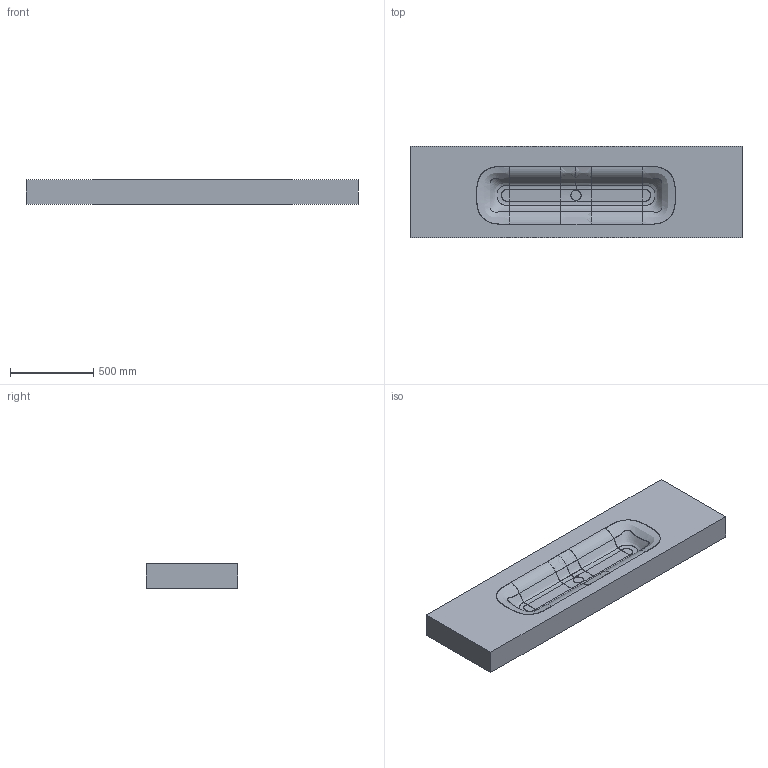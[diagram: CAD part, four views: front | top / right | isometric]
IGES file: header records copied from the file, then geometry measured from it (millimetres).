
Global section: file name: D:\Desktop\GIOVANNI\SCHEDE PRODOTTO\PIANI LAVABO\AQUATICO XL\3D\AQUATICO XL SYSTEM 120.igs; native system: Rhinoceros ( Jan 17 2018 ); preprocessor: Trout Lake IGES 012 Jan 17 2018; date: 230531.153122; units: millimetre
Bounding box: 2000 x 550 x 150 mm (x, y, z)
Surface area: 3082557.4 mm2 (no closed solid volume)
Topology: 0 solids, 0 shells, 49 faces, 3882 edges, 3881 vertices
Faces by surface type: bspline 49
